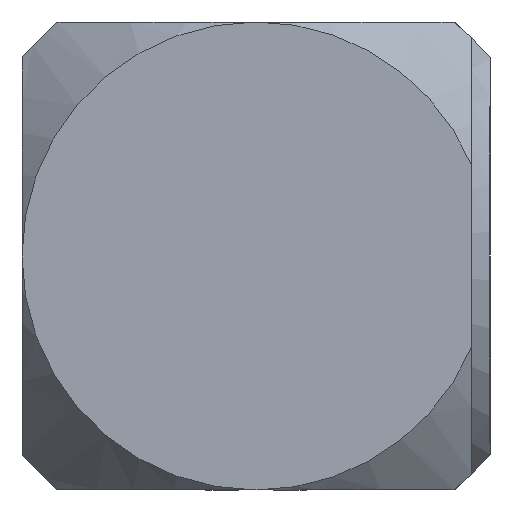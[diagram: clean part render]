
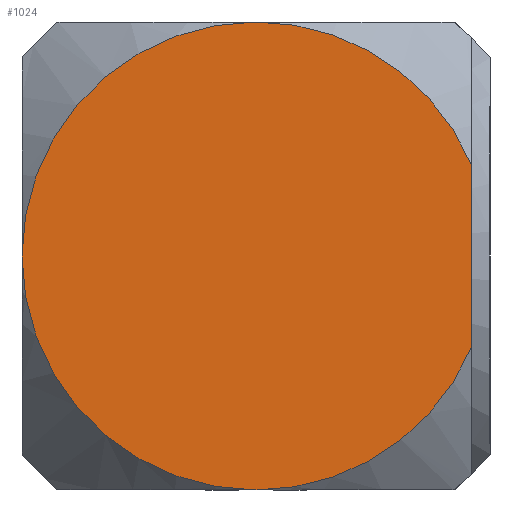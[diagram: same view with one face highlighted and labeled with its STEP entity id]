
A CAD part, left-side view. The second image highlights one B-rep face of the part: STEP entity #1024.
In plain terms, the highlighted planar face has unit normal (-1, 0, 0).
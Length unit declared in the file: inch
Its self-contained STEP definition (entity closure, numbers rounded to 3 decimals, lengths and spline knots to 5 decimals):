
#84=LINE('',#1827,#125);
#125=VECTOR('',#1425,0.3937);
#211=FACE_OUTER_BOUND('',#281,.T.);
#281=EDGE_LOOP('',(#812,#813,#814,#815,#816));
#365=CIRCLE('',#1162,0.5);
#367=CIRCLE('',#1165,0.5);
#368=CIRCLE('',#1166,0.5);
#369=CIRCLE('',#1167,0.5);
#453=VERTEX_POINT('',#1789);
#460=VERTEX_POINT('',#1822);
#461=VERTEX_POINT('',#1826);
#463=VERTEX_POINT('',#1834);
#465=VERTEX_POINT('',#1842);
#583=EDGE_CURVE('',#461,#460,#84,.T.);
#586=EDGE_CURVE('',#463,#461,#365,.T.);
#589=EDGE_CURVE('',#460,#465,#367,.T.);
#590=EDGE_CURVE('',#465,#453,#368,.T.);
#591=EDGE_CURVE('',#453,#463,#369,.T.);
#812=ORIENTED_EDGE('',*,*,#583,.T.);
#813=ORIENTED_EDGE('',*,*,#589,.T.);
#814=ORIENTED_EDGE('',*,*,#590,.T.);
#815=ORIENTED_EDGE('',*,*,#591,.T.);
#816=ORIENTED_EDGE('',*,*,#586,.T.);
#926=PLANE('',#1164);
#1024=ADVANCED_FACE('',(#211),#926,.F.);
#1162=AXIS2_PLACEMENT_3D('',#1835,#1429,#1430);
#1164=AXIS2_PLACEMENT_3D('',#1841,#1433,#1434);
#1165=AXIS2_PLACEMENT_3D('',#1843,#1435,#1436);
#1166=AXIS2_PLACEMENT_3D('',#1844,#1437,#1438);
#1167=AXIS2_PLACEMENT_3D('',#1845,#1439,#1440);
#1425=DIRECTION('',(0.,0.,1.));
#1429=DIRECTION('center_axis',(-1.,0.,0.));
#1430=DIRECTION('ref_axis',(0.,0.707,0.707));
#1433=DIRECTION('center_axis',(1.,0.,0.));
#1434=DIRECTION('ref_axis',(0.,0.,-1.));
#1435=DIRECTION('center_axis',(-1.,0.,0.));
#1436=DIRECTION('ref_axis',(0.,0.707,0.707));
#1437=DIRECTION('center_axis',(-1.,0.,0.));
#1438=DIRECTION('ref_axis',(0.,0.707,0.707));
#1439=DIRECTION('center_axis',(-1.,0.,0.));
#1440=DIRECTION('ref_axis',(0.,0.707,0.707));
#1789=CARTESIAN_POINT('',(-0.7,0.5,0.));
#1822=CARTESIAN_POINT('',(-0.7,-0.46,0.19596));
#1826=CARTESIAN_POINT('',(-0.7,-0.46,-0.19596));
#1827=CARTESIAN_POINT('',(-0.7,-0.46,0.));
#1834=CARTESIAN_POINT('',(-0.7,0.,-0.5));
#1835=CARTESIAN_POINT('Origin',(-0.7,0.,0.));
#1841=CARTESIAN_POINT('Origin',(-0.7,0.,0.));
#1842=CARTESIAN_POINT('',(-0.7,0.,0.5));
#1843=CARTESIAN_POINT('Origin',(-0.7,0.,0.));
#1844=CARTESIAN_POINT('Origin',(-0.7,0.,0.));
#1845=CARTESIAN_POINT('Origin',(-0.7,0.,0.));
